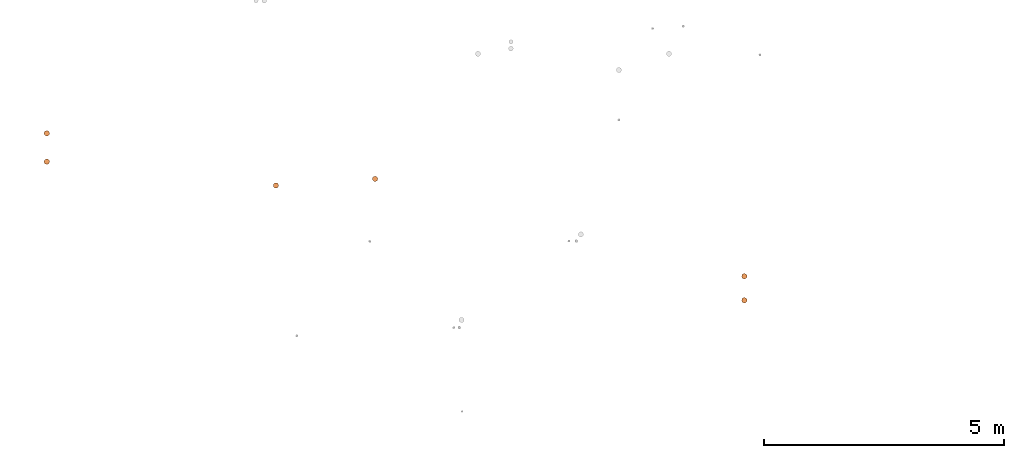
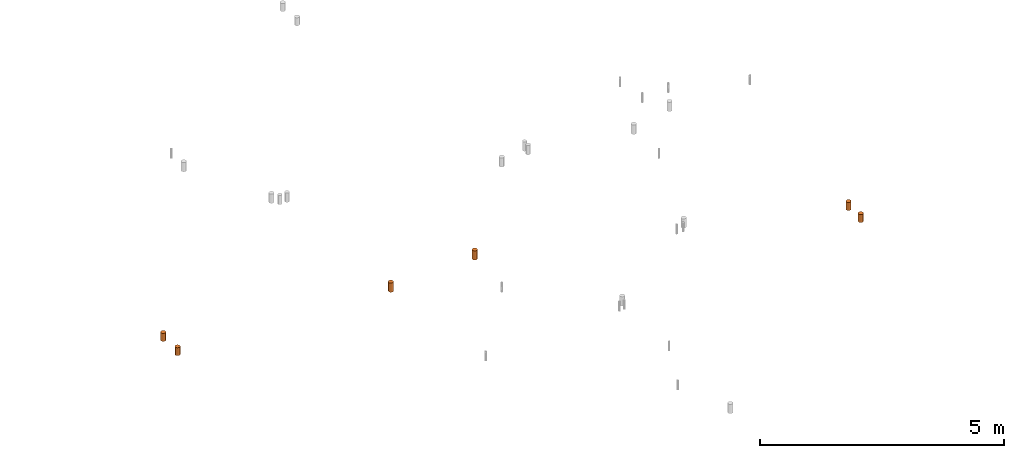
# One storey, part 3 of 16: 6 proxies.
"""IFC2X3 building model written with IfcOpenShell, lengths in centimetres."""

import ifcopenshell
import ifcopenshell.guid

model = None  # the IFC model being written
_history = None  # IfcOwnerHistory: only IFC2X3 demands one
_inside = {}  # id of a spatial element -> (the spatial element, [elements in it])
_under = {}  # id of a project, library or spatial element -> (it, [spatial elements below it])
_declared = {}  # id of a project -> (the project, [libraries it declares])
_typed = {}  # id of a type object -> (the type object, [elements of that type])
_made_of = {}  # id of a material, layer set ... -> (it, [elements and type objects made of it])


def new_model(schema):
    """Start an empty IFC model of exactly this schema.

    Asked for "IFC4X3", IfcOpenShell would pick the latest addendum, in which some entities
    have other attributes; the version numbers below select the first issue.
    IFC2X3 requires an IfcOwnerHistory on every rooted entity: one is made here for all.
    """
    global model, _history
    if schema == "IFC4X3":
        model = ifcopenshell.file(schema_version=(4, 3, 0, 0))
    else:
        model = ifcopenshell.file(schema=schema)
    _inside.clear()
    _under.clear()
    _declared.clear()
    _typed.clear()
    _made_of.clear()
    _history = None
    if model.schema == "IFC2X3":
        org = make("IfcOrganization", Name="unknown")
        user = make(
            "IfcPersonAndOrganization",
            ThePerson=make("IfcPerson", FamilyName="unknown"),
            TheOrganization=org,
        )
        app = make(
            "IfcApplication",
            ApplicationDeveloper=org,
            Version="unknown",
            ApplicationFullName="unknown",
            ApplicationIdentifier="unknown",
        )
        _history = make(
            "IfcOwnerHistory",
            OwningUser=user,
            OwningApplication=app,
            ChangeAction="ADDED",
            CreationDate=0,
        )
    return model


def make(cls, **values):
    """One entity of the class cls with the attributes given. An attribute that is None is left unset."""
    return model.create_entity(
        cls, **{name: value for name, value in values.items() if value is not None}
    )


def entity(cls, *values):
    """Any entity or typed value of the class cls, its attributes in the order of the schema. None: left unset."""
    e = model.create_entity(cls)
    for i, value in enumerate(values):
        if value is not None:
            e[i] = value
    return e


def rooted(cls, **values):
    """An entity with a GlobalId (a new one), such as an element, a storey or a relation."""
    return make(cls, GlobalId=ifcopenshell.guid.new(), OwnerHistory=_history, **values)


def si_unit(unit_type, name, prefix=None):
    """IfcSIUnit, for example si_unit("LENGTHUNIT", "METRE", prefix="MILLI")."""
    return make("IfcSIUnit", UnitType=unit_type, Prefix=prefix, Name=name)


def converted_unit(unit_type, name, factor, base, dimensions=None, offset=None):
    """IfcConversionBasedUnit, such as the inch: factor (a typed value) times the base unit."""
    return make(
        "IfcConversionBasedUnit"
        if offset is None
        else "IfcConversionBasedUnitWithOffset",
        ConversionOffset=offset,
        Dimensions=None
        if dimensions is None
        else entity("IfcDimensionalExponents", *dimensions),
        UnitType=unit_type,
        Name=name,
        ConversionFactor=make(
            "IfcMeasureWithUnit", ValueComponent=factor, UnitComponent=base
        ),
    )


def derived_unit(unit_type, elements):
    """IfcDerivedUnit: a product of units, each with its exponent."""
    return make(
        "IfcDerivedUnit",
        Elements=[
            make("IfcDerivedUnitElement", Unit=unit, Exponent=power)
            for unit, power in elements
        ],
        UnitType=unit_type,
    )


def assignment(units):
    """IfcUnitAssignment: the units of a project."""
    return None if units is None else make("IfcUnitAssignment", Units=units)


def point(xyz):
    """IfcCartesianPoint."""
    return None if xyz is None else make("IfcCartesianPoint", Coordinates=xyz)


def direction(xyz):
    """IfcDirection."""
    return None if xyz is None else make("IfcDirection", DirectionRatios=xyz)


def frame(location, z_axis=None, x_axis=None):
    """IfcAxis2Placement3D, a coordinate frame: its origin and axes. An axis left out is left unset."""
    return make(
        "IfcAxis2Placement3D",
        Location=point(location),
        Axis=direction(z_axis),
        RefDirection=direction(x_axis),
    )


def frame_2d(location, x_axis=None):
    """IfcAxis2Placement2D, a coordinate frame in the plane: its origin and x axis."""
    return make(
        "IfcAxis2Placement2D", Location=point(location), RefDirection=direction(x_axis)
    )


def origin():
    """The frame at (0, 0, 0) with its axes left unset."""
    return frame((0.0, 0.0, 0.0))


def origin_2d_with_axis():
    """The frame at (0, 0) in the plane with the x axis (1, 0) written out."""
    return frame_2d((0.0, 0.0), x_axis=(1.0, 0.0))


def place(relative_to, where):
    """IfcLocalPlacement: puts the frame where relative to a parent placement (None: the world)."""
    return make(
        "IfcLocalPlacement", PlacementRelTo=relative_to, RelativePlacement=where
    )


def context(
    kind, dimensions, precision=None, world=None, true_north=None, identifier=None
):
    """IfcGeometricRepresentationContext, for example the 3D "Model" context."""
    return make(
        "IfcGeometricRepresentationContext",
        ContextIdentifier=identifier,
        ContextType=kind,
        CoordinateSpaceDimension=dimensions,
        Precision=precision,
        WorldCoordinateSystem=world,
        TrueNorth=true_north,
    )


def subcontext(parent, identifier, kind, view, scale=None):
    """IfcGeometricRepresentationSubContext, for example "Body" below "Model"."""
    return make(
        "IfcGeometricRepresentationSubContext",
        ContextIdentifier=identifier,
        ContextType=kind,
        ParentContext=parent,
        TargetScale=scale,
        TargetView=view,
    )


def project(units=None, contexts=None):
    """IfcProject with its units and contexts."""
    return rooted(
        "IfcProject",
        Name="project",
        RepresentationContexts=contexts,
        UnitsInContext=assignment(units),
    )


def spatial(cls, under=None, at=None, **own):
    """A site, building, storey or space (cls), placed at a placement, below another one or the project."""
    s = rooted(cls, ObjectPlacement=at, **own)
    if under is not None:
        _under.setdefault(under.id(), (under, []))[1].append(s)
    return s


def profile(cls, at=None, kind="AREA", **sizes):
    """A parametric profile (cls). Its sizes go by their IFC names, for example OverallWidth=200.0."""
    return make(cls, ProfileType=kind, Position=at, **sizes)


def circle(**sizes):
    """IfcCircleProfileDef."""
    return profile("IfcCircleProfileDef", **sizes)


def extrude(swept, where, along, depth):
    """IfcExtrudedAreaSolid: the profile swept, set in the frame where, extruded along a direction by depth."""
    return make(
        "IfcExtrudedAreaSolid",
        SweptArea=swept,
        Position=where,
        ExtrudedDirection=direction(along),
        Depth=depth,
    )


def shape(context_of_items, identifier, shape_type, items):
    """IfcShapeRepresentation: the items that make up one representation, for example the "Body"."""
    return make(
        "IfcShapeRepresentation",
        ContextOfItems=context_of_items,
        RepresentationIdentifier=identifier,
        RepresentationType=shape_type,
        Items=items,
    )


def source(mapping_origin, context_of_items, identifier, shape_type, items):
    """IfcRepresentationMap: a shape defined once, which mapped items show again and again."""
    return make(
        "IfcRepresentationMap",
        MappingOrigin=mapping_origin,
        MappedRepresentation=shape(context_of_items, identifier, shape_type, items),
    )


def transform(
    local_origin,
    x_axis=None,
    y_axis=None,
    z_axis=None,
    scale=None,
    scale2=None,
    scale3=None,
    uniform=True,
):
    """IfcCartesianTransformationOperator3D, or its non-uniform kind. x_axis, y_axis, z_axis: its Axis1, 2, 3."""
    if uniform:
        return make(
            "IfcCartesianTransformationOperator3D",
            Axis1=direction(x_axis),
            Axis2=direction(y_axis),
            LocalOrigin=point(local_origin),
            Scale=scale,
            Axis3=direction(z_axis),
        )
    return make(
        "IfcCartesianTransformationOperator3DnonUniform",
        Axis1=direction(x_axis),
        Axis2=direction(y_axis),
        LocalOrigin=point(local_origin),
        Scale=scale,
        Axis3=direction(z_axis),
        Scale2=scale2,
        Scale3=scale3,
    )


def mapped(mapping_source, mapping_target):
    """IfcMappedItem: shows the shape of a source again, moved by a transform."""
    return make(
        "IfcMappedItem", MappingSource=mapping_source, MappingTarget=mapping_target
    )


def material(Name=None, Category=None):
    """IfcMaterial."""
    return make("IfcMaterial", Name=Name, Category=Category)


def made_of(thing, what):
    """Note that an element or type object is made of a material, layer set ...; save() writes the relation."""
    if what is not None:
        _made_of.setdefault(what.id(), (what, []))[1].append(thing)
    return thing


def type_object(cls, material=None, **own):
    """A type object (cls), such as IfcWallType, which elements share."""
    return made_of(rooted(cls, **own), material)


def type_shapes(of_type, sources):
    """Give a type object the sources (RepresentationMaps) that its elements show as mapped items."""
    of_type.RepresentationMaps = sources


def element(
    cls,
    number,
    at=None,
    inside=None,
    cuts=None,
    type_object=None,
    material=None,
    context=None,
    identifier="Body",
    shape_type=None,
    held_by="IfcProductDefinitionShape",
    body=None,
    shapes=None,
    **own,
):
    """One element of the class cls, such as IfcWall. Its Tag is "e" and its number.

    at: its placement. inside: the storey or other place that contains it. cuts: it is an
    opening in that element (IfcRelVoidsElement). A single representation is given by context,
    identifier, shape_type and body (its items); several are given by shapes. held_by: the class
    of the entity that holds the representations. save() writes the other relations.
    """
    e = rooted(cls, Tag="e%d" % number, ObjectPlacement=at, **own)
    if body is not None:
        shapes = [shape(context, identifier, shape_type, body)]
    if shapes is not None:
        e.Representation = make(held_by, Representations=shapes)
    if inside is not None:
        _inside.setdefault(inside.id(), (inside, []))[1].append(e)
    if cuts is not None:
        rooted(
            "IfcRelVoidsElement", RelatingBuildingElement=cuts, RelatedOpeningElement=e
        )
    if type_object is not None:
        _typed.setdefault(type_object.id(), (type_object, []))[1].append(e)
    return made_of(e, material)


def aggregate(whole, parts):
    """IfcRelAggregates: a whole, such as a stair, and the parts it consists of."""
    return rooted("IfcRelAggregates", RelatingObject=whole, RelatedObjects=parts)


def save(model, path):
    """Write the relations noted so far, then the file.

    IfcRelAggregates (storeys below a building ...), IfcRelContainedInSpatialStructure (elements
    in a storey), IfcRelDefinesByType, IfcRelAssociatesMaterial and IfcRelDeclares: one each for
    every whole, place, type object, material and project.
    """
    for whole, parts in _under.values():
        aggregate(whole, parts)
    for where, things in _inside.values():
        rooted(
            "IfcRelContainedInSpatialStructure",
            RelatedElements=things,
            RelatingStructure=where,
        )
    for kind, things in _typed.values():
        rooted("IfcRelDefinesByType", RelatedObjects=things, RelatingType=kind)
    for what, things in _made_of.values():
        rooted("IfcRelAssociatesMaterial", RelatedObjects=things, RelatingMaterial=what)
    for by, libraries in _declared.values():
        rooted("IfcRelDeclares", RelatingContext=by, RelatedDefinitions=libraries)
    model.write(path)


model = new_model("IFC2X3")

# Units and contexts
model_context = context("Model", 3, precision=0.001, world=origin(), true_north=direction((6.12303176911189e-17, 1.0)))
body_context = subcontext(model_context, "Body", "Model", "MODEL_VIEW")
ifc_project = project(units=[si_unit("LENGTHUNIT", "METRE", prefix="CENTI"), si_unit("AREAUNIT", "SQUARE_METRE"), si_unit("VOLUMEUNIT", "CUBIC_METRE"), converted_unit("PLANEANGLEUNIT", "DEGREE", entity("IfcRatioMeasure", 0.0174532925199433), si_unit("PLANEANGLEUNIT", "RADIAN"), dimensions=[0, 0, 0, 0, 0, 0, 0]), si_unit("MASSUNIT", "GRAM", prefix="KILO"), derived_unit("MASSDENSITYUNIT", [(si_unit("MASSUNIT", "GRAM", prefix="KILO"), 1), (si_unit("LENGTHUNIT", "METRE"), -3)]), si_unit("TIMEUNIT", "SECOND"), si_unit("FREQUENCYUNIT", "HERTZ"), si_unit("THERMODYNAMICTEMPERATUREUNIT", "DEGREE_CELSIUS"), derived_unit("THERMALTRANSMITTANCEUNIT", [(si_unit("MASSUNIT", "GRAM", prefix="KILO"), 1), (si_unit("THERMODYNAMICTEMPERATUREUNIT", "KELVIN"), -1), (si_unit("TIMEUNIT", "SECOND"), -3)]), derived_unit("VOLUMETRICFLOWRATEUNIT", [(si_unit("LENGTHUNIT", "METRE"), 3), (si_unit("TIMEUNIT", "SECOND"), -1)]), si_unit("ELECTRICCURRENTUNIT", "AMPERE"), si_unit("ELECTRICVOLTAGEUNIT", "VOLT"), si_unit("POWERUNIT", "WATT"), si_unit("FORCEUNIT", "NEWTON"), si_unit("ILLUMINANCEUNIT", "LUX"), si_unit("LUMINOUSFLUXUNIT", "LUMEN"), si_unit("LUMINOUSINTENSITYUNIT", "CANDELA"), derived_unit("USERDEFINED", [(si_unit("MASSUNIT", "GRAM", prefix="KILO"), -1), (si_unit("LENGTHUNIT", "METRE"), -2), (si_unit("TIMEUNIT", "SECOND"), 3), (si_unit("LUMINOUSFLUXUNIT", "LUMEN"), 1)]), derived_unit("LINEARVELOCITYUNIT", [(si_unit("LENGTHUNIT", "METRE"), 1), (si_unit("TIMEUNIT", "SECOND"), -1)]), si_unit("PRESSUREUNIT", "PASCAL"), derived_unit("USERDEFINED", [(si_unit("LENGTHUNIT", "METRE"), -2), (si_unit("MASSUNIT", "GRAM", prefix="KILO"), 1), (si_unit("TIMEUNIT", "SECOND"), -2)])], contexts=[model_context])

# Site, building, storey
site_placement = place(None, origin())
site = spatial("IfcSite", under=ifc_project, at=site_placement, Name="Default", CompositionType="ELEMENT")
building_placement = place(site_placement, origin())
building = spatial("IfcBuilding", under=site, at=building_placement, Name="CAGE 03", CompositionType="ELEMENT")
storey_placement = place(building_placement, frame((0.0, 0.0, 65.0)))
storey = spatial("IfcBuildingStorey", under=building, at=storey_placement, Name="Ac RDC", CompositionType="ELEMENT", Elevation=64.9999999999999)

# Proxies
ifc_material = material(Name="BBGO_Résa")
building_element_proxy_type_1 = type_object("IfcBuildingElementProxyType", Name="Ø110", PredefinedType="NOTDEFINED", material=ifc_material)
shared_shape_1 = source(origin(), body_context, "Body", "SweptSolid", [
    extrude(circle(Radius=5.5, at=origin_2d_with_axis()), frame((4715.36582014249, 4037.16066607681, 295.0)), (0.0, 0.0, 1.0), 19.9999999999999),
])
type_shapes(building_element_proxy_type_1, [shared_shape_1])
proxy_1_placement = place(storey_placement, frame((0.0, 0.0, -65.0)))
element("IfcBuildingElementProxy", 1, at=proxy_1_placement, inside=storey, type_object=building_element_proxy_type_1, material=ifc_material, Name="BBGO-Résa circ dalle:Ø110", ObjectType="Ø110", context=body_context, shape_type="MappedRepresentation", body=[
    mapped(shared_shape_1, transform((0.0, 0.0, 0.0), scale=1.0)),
])
building_element_proxy_type_2 = type_object("IfcBuildingElementProxyType", Name="Ø110", PredefinedType="NOTDEFINED", material=ifc_material)
shared_shape_2 = source(origin(), body_context, "Body", "SweptSolid", [
    extrude(circle(Radius=5.5, at=origin_2d_with_axis()), frame((3263.03412685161, 4275.69348840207, 295.0)), (0.0, 0.0, 1.0), 20.0),
])
type_shapes(building_element_proxy_type_2, [shared_shape_2])
proxy_2_placement = place(storey_placement, frame((0.0, 0.0, -65.0)))
element("IfcBuildingElementProxy", 2, at=proxy_2_placement, inside=storey, type_object=building_element_proxy_type_2, material=ifc_material, Name="BBGO-Résa circ dalle:Ø110", ObjectType="Ø110", context=body_context, shape_type="MappedRepresentation", body=[
    mapped(shared_shape_2, transform((0.0, 0.0, 0.0), scale=1.0)),
])
building_element_proxy_type_3 = type_object("IfcBuildingElementProxyType", Name="Ø110", PredefinedType="NOTDEFINED", material=ifc_material)
shared_shape_3 = source(origin(), body_context, "Body", "SweptSolid", [
    extrude(circle(Radius=5.5, at=origin_2d_with_axis()), frame((3263.03412685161, 4334.69348840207, 295.0)), (0.0, 0.0, 1.0), 20.0),
])
type_shapes(building_element_proxy_type_3, [shared_shape_3])
proxy_3_placement = place(storey_placement, frame((0.0, 0.0, -65.0)))
element("IfcBuildingElementProxy", 3, at=proxy_3_placement, inside=storey, type_object=building_element_proxy_type_3, material=ifc_material, Name="BBGO-Résa circ dalle:Ø110", ObjectType="Ø110", context=body_context, shape_type="MappedRepresentation", body=[
    mapped(shared_shape_3, transform((0.0, 0.0, 0.0), scale=1.0)),
])
building_element_proxy_type_4 = type_object("IfcBuildingElementProxyType", Name="Ø110", PredefinedType="NOTDEFINED", material=ifc_material)
shared_shape_4 = source(origin(), body_context, "Body", "SweptSolid", [
    extrude(circle(Radius=5.5, at=origin_2d_with_axis()), frame((4715.36582014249, 3987.16066607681, 295.0)), (0.0, 0.0, 1.0), 19.9999999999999),
])
type_shapes(building_element_proxy_type_4, [shared_shape_4])
proxy_4_placement = place(storey_placement, frame((0.0, 0.0, -65.0)))
element("IfcBuildingElementProxy", 4, at=proxy_4_placement, inside=storey, type_object=building_element_proxy_type_4, material=ifc_material, Name="BBGO-Résa circ dalle:Ø110", ObjectType="Ø110", context=body_context, shape_type="MappedRepresentation", body=[
    mapped(shared_shape_4, transform((0.0, 0.0, 0.0), scale=1.0)),
])
building_element_proxy_type_5 = type_object("IfcBuildingElementProxyType", Name="Ø110", PredefinedType="NOTDEFINED", material=ifc_material)
shared_shape_5 = source(origin(), body_context, "Body", "SweptSolid", [
    extrude(circle(Radius=5.5, at=origin_2d_with_axis()), frame((3739.92876658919, 4226.18111442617, 317.0)), (0.0, 0.0, 1.0), 22.9999999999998),
])
type_shapes(building_element_proxy_type_5, [shared_shape_5])
proxy_5_placement = place(storey_placement, frame((0.0, 0.0, -65.0)))
element("IfcBuildingElementProxy", 5, at=proxy_5_placement, inside=storey, type_object=building_element_proxy_type_5, material=ifc_material, Name="BBGO-Résa circ dalle:Ø110", ObjectType="Ø110", context=body_context, shape_type="MappedRepresentation", body=[
    mapped(shared_shape_5, transform((0.0, 0.0, 0.0), scale=1.0)),
])
building_element_proxy_type_6 = type_object("IfcBuildingElementProxyType", Name="Ø110", PredefinedType="NOTDEFINED", material=ifc_material)
shared_shape_6 = source(origin(), body_context, "Body", "SweptSolid", [
    extrude(circle(Radius=5.5, at=origin_2d_with_axis()), frame((3946.58140036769, 4239.91189990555, 317.0)), (0.0, 0.0, 1.0), 22.9999999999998),
])
type_shapes(building_element_proxy_type_6, [shared_shape_6])
proxy_6_placement = place(storey_placement, frame((0.0, 0.0, -65.0)))
element("IfcBuildingElementProxy", 6, at=proxy_6_placement, inside=storey, type_object=building_element_proxy_type_6, material=ifc_material, Name="BBGO-Résa circ dalle:Ø110", ObjectType="Ø110", context=body_context, shape_type="MappedRepresentation", body=[
    mapped(shared_shape_6, transform((0.0, 0.0, 0.0), scale=1.0)),
])

save(model, "model.ifc")
